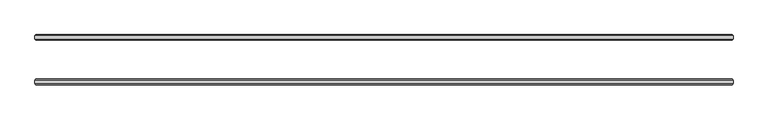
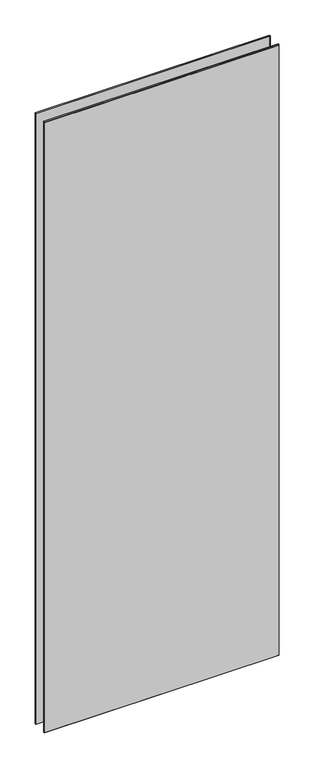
"""IFC4 building model written with IfcOpenShell, lengths in millimetres: plate geometry, 3-AMG-2-Панель двойной витраж 8, 10 : Смещение 32 Толщина 8mm."""

from ifc_helpers import new_model, si_unit, origin, place, context, project, spatial, faceted_brep, source, transform, mapped, element, save


def plate_57babfa3(model_context):
    return source(origin(), model_context, "Body", "Brep", [
        faceted_brep([(498.9848019, -34.4961653, 2751.0), (498.9848019, -29.5038347, 2751.0), (-503.9848019, -29.5038347, 2751.0), (-503.9848019, -34.4961653, 2751.0), (498.9848019, -29.5038347, -7.0), (498.9848019, -34.4961653, -7.0), (-503.9848019, -34.4961653, -7.0), (-503.9848019, -29.5038347, -7.0), (-502.4809671, -28.0, 2749.4961653), (497.4809671, -28.0, 2749.4961653), (497.4809671, -28.0, -5.5039422), (-502.4809671, -28.0, -5.5039422), (497.4809671, -36.0, 2749.4961653), (-502.4809671, -36.0, 2749.4961653), (-502.4809671, -36.0, -5.4961653), (497.4809671, -36.0, -5.4961653)], [[[0, 1, 2, 3]], [[4, 5, 6, 7]], [[8, 9, 10, 11]], [[3, 2, 7, 6]], [[12, 13, 14, 15]], [[1, 0, 5, 4]], [[1, 4, 10, 9]], [[5, 0, 12, 15]], [[0, 3, 13, 12]], [[2, 1, 9, 8]], [[7, 2, 8, 11]], [[3, 6, 14, 13]], [[6, 5, 15, 14]], [[4, 7, 11, 10]]]),
        faceted_brep([(498.9848019, 29.5038347, 2751.0), (498.9848019, 34.4961653, 2751.0), (-503.9848019, 34.4961653, 2751.0), (-503.9848019, 29.5038347, 2751.0), (498.9848019, 34.4961653, -7.0), (498.9848019, 29.5038347, -7.0), (-503.9848019, 29.5038347, -7.0), (-503.9848019, 34.4961653, -7.0), (-502.4809671, 36.0, 2749.4961653), (497.4809671, 36.0, 2749.4961653), (497.4809671, 36.0, -5.5039422), (-502.4809671, 36.0, -5.5039422), (497.4809671, 28.0, 2749.4961653), (-502.4809671, 28.0, 2749.4961653), (-502.4809671, 28.0, -5.4961653), (497.4809671, 28.0, -5.4961653)], [[[0, 1, 2, 3]], [[4, 5, 6, 7]], [[8, 9, 10, 11]], [[3, 2, 7, 6]], [[12, 13, 14, 15]], [[1, 0, 5, 4]], [[1, 4, 10, 9]], [[5, 0, 12, 15]], [[7, 2, 8, 11]], [[3, 6, 14, 13]], [[0, 3, 13, 12]], [[2, 1, 9, 8]], [[6, 5, 15, 14]], [[4, 7, 11, 10]]]),
    ])


if __name__ == "__main__":
    model = new_model("IFC4")
    model_context = context("Model", 3, world=origin())
    ifc_project = project(units=[si_unit("LENGTHUNIT", "METRE", prefix="MILLI")], contexts=[model_context])
    site = spatial("IfcSite", under=ifc_project)
    building = spatial("IfcBuilding", under=site)
    placement = place(None, origin())
    plate_shape = plate_57babfa3(model_context)
    element("IfcPlate", 1, ObjectType="3-AMG-2-Панель двойной витраж 8, 10 : Смещение 32 Толщина 8mm", at=placement, inside=building, context=model_context, shape_type="MappedRepresentation", body=[
        mapped(plate_shape, transform((0.0, 0.0, 0.0), x_axis=(1.0, 0.0, 0.0), y_axis=(0.0, 1.0, 0.0), z_axis=(0.0, 0.0, 1.0))),
    ])
    save(model, "model.ifc")
